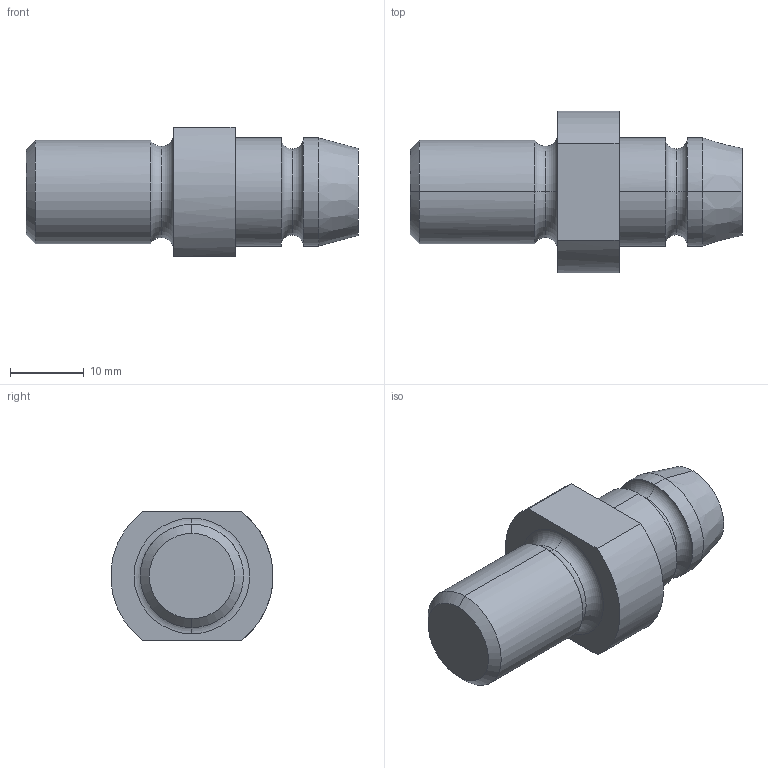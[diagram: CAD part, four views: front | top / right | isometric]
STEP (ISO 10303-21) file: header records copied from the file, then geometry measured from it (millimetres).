
FILE_DESCRIPTION(('CATIA V5 STEP Exchange'),'2;1');
FILE_NAME('C:\Users\Utente\Desktop\IO LAVORO\3D X SITO CF\X SITO\PLASTICA\AGS\AGS3301M14.stp','2021-02-21T19:08:59+00:00',('none'),('none'),'CATIA Version 5 Release 20 GA (IN-10)','CATIA V5 STEP AP203','none');
FILE_SCHEMA(('CONFIG_CONTROL_DESIGN'));
Length unit declared in the file: millimetre
Products named in the file (1): AGS3301M14
Bounding box: 45 x 21.95 x 17.6 mm (x, y, z)
Volume: 8319.9 mm3; surface area: 2836.8 mm2
Topology: 1 solids, 1 shells, 26 faces, 70 edges, 48 vertices
Faces by surface type: cylinder 8, torus 8, plane 6, cone 4
Entity records: 926 total; most frequent: CARTESIAN_POINT 245, ORIENTED_EDGE 140, DIRECTION 111, EDGE_CURVE 70, AXIS2_PLACEMENT_3D 68, VERTEX_POINT 48, CIRCLE 41, EDGE_LOOP 28
